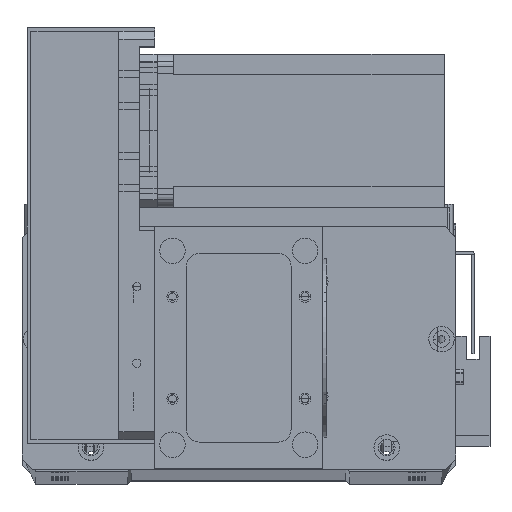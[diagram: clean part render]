
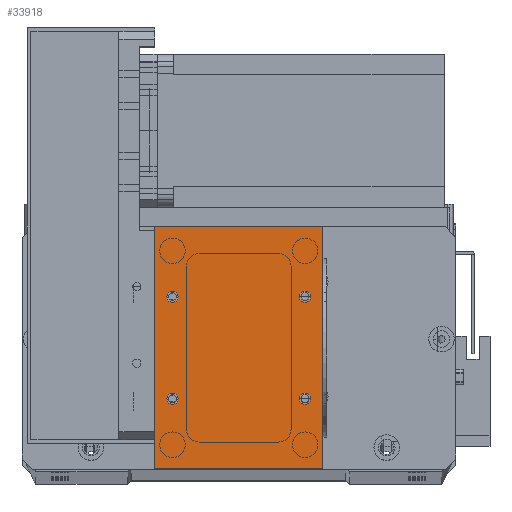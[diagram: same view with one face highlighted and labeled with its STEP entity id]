
A CAD part, top view. The second image highlights one B-rep face of the part: STEP entity #33918.
In plain terms, the highlighted planar face has unit normal (0, 0, 1).
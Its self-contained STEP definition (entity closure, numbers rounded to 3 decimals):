
#682 = CARTESIAN_POINT ( 'NONE',  ( 61.25, 27.5, 2. ) ) ;
#988 = CARTESIAN_POINT ( 'NONE',  ( 61.25, 67.5, 2. ) ) ;
#1101 = ORIENTED_EDGE ( 'NONE', *, *, #25718, .F. ) ;
#1375 = CARTESIAN_POINT ( 'NONE',  ( 0., 95., 2. ) ) ;
#1760 = CARTESIAN_POINT ( 'NONE',  ( 0., 0., 2. ) ) ;
#2387 = AXIS2_PLACEMENT_3D ( 'NONE', #13676, #32289, #16346 ) ;
#2413 = CARTESIAN_POINT ( 'NONE',  ( 56.75, 67.5, 2. ) ) ;
#2605 = DIRECTION ( 'NONE',  ( 0., 0., 1. ) ) ;
#2653 = ORIENTED_EDGE ( 'NONE', *, *, #20261, .F. ) ;
#2691 = AXIS2_PLACEMENT_3D ( 'NONE', #19120, #3197, #21784 ) ;
#2707 = VERTEX_POINT ( 'NONE', #12539 ) ;
#2778 = FACE_BOUND ( 'NONE', #3938, .T. ) ;
#3110 = CARTESIAN_POINT ( 'NONE',  ( 9.25, 67.5, 2. ) ) ;
#3197 = DIRECTION ( 'NONE',  ( 0., 0., 1. ) ) ;
#3351 = LINE ( 'NONE', #15762, #30837 ) ;
#3468 = CARTESIAN_POINT ( 'NONE',  ( 7., 67.5, 2. ) ) ;
#3938 = EDGE_LOOP ( 'NONE', ( #5682, #15000 ) ) ;
#4869 = ORIENTED_EDGE ( 'NONE', *, *, #27248, .F. ) ;
#5108 = ORIENTED_EDGE ( 'NONE', *, *, #32417, .F. ) ;
#5682 = ORIENTED_EDGE ( 'NONE', *, *, #17378, .F. ) ;
#6128 = DIRECTION ( 'NONE',  ( 1., 0., 0. ) ) ;
#6386 = EDGE_CURVE ( 'NONE', #23141, #20887, #33708, .T. ) ;
#6452 = AXIS2_PLACEMENT_3D ( 'NONE', #7600, #26212, #10266 ) ;
#6619 = EDGE_CURVE ( 'NONE', #25250, #34156, #19092, .T. ) ;
#7401 = EDGE_LOOP ( 'NONE', ( #4869, #15525 ) ) ;
#7600 = CARTESIAN_POINT ( 'NONE',  ( 59., 67.5, 2. ) ) ;
#8089 = VERTEX_POINT ( 'NONE', #988 ) ;
#8989 = CARTESIAN_POINT ( 'NONE',  ( 66., 0., 2. ) ) ;
#9280 = CIRCLE ( 'NONE', #33717, 2.25 ) ;
#9389 = CARTESIAN_POINT ( 'NONE',  ( 0., 95., 2. ) ) ;
#9685 = VERTEX_POINT ( 'NONE', #682 ) ;
#9852 = FACE_BOUND ( 'NONE', #11089, .T. ) ;
#10001 = VERTEX_POINT ( 'NONE', #2413 ) ;
#10014 = VECTOR ( 'NONE', #17390, 1000. ) ;
#10231 = CIRCLE ( 'NONE', #6452, 2.25 ) ;
#10266 = DIRECTION ( 'NONE',  ( 1., 0., 0. ) ) ;
#10377 = VECTOR ( 'NONE', #22353, 1000. ) ;
#10667 = CARTESIAN_POINT ( 'NONE',  ( 59., 67.5, 2. ) ) ;
#10669 = FACE_BOUND ( 'NONE', #24160, .T. ) ;
#10838 = EDGE_CURVE ( 'NONE', #20887, #22501, #17461, .T. ) ;
#10890 = CARTESIAN_POINT ( 'NONE',  ( 4.75, 67.5, 2. ) ) ;
#11089 = EDGE_LOOP ( 'NONE', ( #2653, #5108 ) ) ;
#11448 = DIRECTION ( 'NONE',  ( 0., 0., 1. ) ) ;
#11756 = EDGE_LOOP ( 'NONE', ( #13545, #19190, #18912, #26190 ) ) ;
#11824 = DIRECTION ( 'NONE',  ( 0., 0., 1. ) ) ;
#12020 = AXIS2_PLACEMENT_3D ( 'NONE', #27372, #11448, #30029 ) ;
#12539 = CARTESIAN_POINT ( 'NONE',  ( 9.25, 27.5, 2. ) ) ;
#12666 = DIRECTION ( 'NONE',  ( 0., 0., -1. ) ) ;
#13343 = DIRECTION ( 'NONE',  ( 1., 0., 0. ) ) ;
#13518 = EDGE_CURVE ( 'NONE', #30149, #2707, #28265, .T. ) ;
#13545 = ORIENTED_EDGE ( 'NONE', *, *, #20169, .T. ) ;
#13676 = CARTESIAN_POINT ( 'NONE',  ( 59., 27.5, 2. ) ) ;
#14940 = AXIS2_PLACEMENT_3D ( 'NONE', #3468, #22029, #6128 ) ;
#15000 = ORIENTED_EDGE ( 'NONE', *, *, #13518, .F. ) ;
#15525 = ORIENTED_EDGE ( 'NONE', *, *, #23048, .F. ) ;
#15762 = CARTESIAN_POINT ( 'NONE',  ( 0., 0., 2. ) ) ;
#16346 = DIRECTION ( 'NONE',  ( 1., 0., 0. ) ) ;
#16908 = FACE_BOUND ( 'NONE', #7401, .T. ) ;
#16942 = ORIENTED_EDGE ( 'NONE', *, *, #6619, .F. ) ;
#17077 = LINE ( 'NONE', #9389, #10014 ) ;
#17378 = EDGE_CURVE ( 'NONE', #2707, #30149, #29655, .T. ) ;
#17390 = DIRECTION ( 'NONE',  ( -1., 0., 0. ) ) ;
#17461 = LINE ( 'NONE', #8989, #10377 ) ;
#17722 = CIRCLE ( 'NONE', #22595, 2.25 ) ;
#17876 = VECTOR ( 'NONE', #31425, 1000. ) ;
#18519 = CARTESIAN_POINT ( 'NONE',  ( 0., 0., 2. ) ) ;
#18532 = CARTESIAN_POINT ( 'NONE',  ( 7., 67.5, 2. ) ) ;
#18676 = EDGE_CURVE ( 'NONE', #22501, #29126, #17077, .T. ) ;
#18912 = ORIENTED_EDGE ( 'NONE', *, *, #10838, .T. ) ;
#19092 = CIRCLE ( 'NONE', #14940, 2.25 ) ;
#19120 = CARTESIAN_POINT ( 'NONE',  ( 59., 27.5, 2. ) ) ;
#19190 = ORIENTED_EDGE ( 'NONE', *, *, #6386, .T. ) ;
#19492 = CIRCLE ( 'NONE', #2691, 2.25 ) ;
#20169 = EDGE_CURVE ( 'NONE', #29126, #23141, #3351, .T. ) ;
#20261 = EDGE_CURVE ( 'NONE', #9685, #30428, #29138, .T. ) ;
#20692 = CARTESIAN_POINT ( 'NONE',  ( 56.75, 27.5, 2. ) ) ;
#20766 = CARTESIAN_POINT ( 'NONE',  ( 66., 95., 2. ) ) ;
#20808 = CARTESIAN_POINT ( 'NONE',  ( 0., 0., 2. ) ) ;
#20887 = VERTEX_POINT ( 'NONE', #21894 ) ;
#21193 = DIRECTION ( 'NONE',  ( 1., 0., 0. ) ) ;
#21784 = DIRECTION ( 'NONE',  ( 1., 0., 0. ) ) ;
#21894 = CARTESIAN_POINT ( 'NONE',  ( 66., 0., 2. ) ) ;
#22029 = DIRECTION ( 'NONE',  ( 0., 0., 1. ) ) ;
#22353 = DIRECTION ( 'NONE',  ( 0., 1., 0. ) ) ;
#22501 = VERTEX_POINT ( 'NONE', #20766 ) ;
#22595 = AXIS2_PLACEMENT_3D ( 'NONE', #10667, #29270, #13343 ) ;
#23048 = EDGE_CURVE ( 'NONE', #10001, #8089, #10231, .T. ) ;
#23141 = VERTEX_POINT ( 'NONE', #18519 ) ;
#23233 = PLANE ( 'NONE',  #31891 ) ;
#23921 = AXIS2_PLACEMENT_3D ( 'NONE', #27749, #11824, #30414 ) ;
#24160 = EDGE_LOOP ( 'NONE', ( #16942, #1101 ) ) ;
#25250 = VERTEX_POINT ( 'NONE', #3110 ) ;
#25718 = EDGE_CURVE ( 'NONE', #34156, #25250, #9280, .T. ) ;
#26190 = ORIENTED_EDGE ( 'NONE', *, *, #18676, .T. ) ;
#26212 = DIRECTION ( 'NONE',  ( 0., 0., 1. ) ) ;
#27248 = EDGE_CURVE ( 'NONE', #8089, #10001, #17722, .T. ) ;
#27372 = CARTESIAN_POINT ( 'NONE',  ( 7., 27.5, 2. ) ) ;
#27749 = CARTESIAN_POINT ( 'NONE',  ( 7., 27.5, 2. ) ) ;
#28265 = CIRCLE ( 'NONE', #12020, 2.25 ) ;
#29126 = VERTEX_POINT ( 'NONE', #1375 ) ;
#29138 = CIRCLE ( 'NONE', #2387, 2.25 ) ;
#29270 = DIRECTION ( 'NONE',  ( 0., 0., 1. ) ) ;
#29655 = CIRCLE ( 'NONE', #23921, 2.25 ) ;
#30029 = DIRECTION ( 'NONE',  ( 1., 0., 0. ) ) ;
#30149 = VERTEX_POINT ( 'NONE', #30248 ) ;
#30248 = CARTESIAN_POINT ( 'NONE',  ( 4.75, 27.5, 2. ) ) ;
#30249 = FACE_OUTER_BOUND ( 'NONE', #11756, .T. ) ;
#30414 = DIRECTION ( 'NONE',  ( 1., 0., 0. ) ) ;
#30428 = VERTEX_POINT ( 'NONE', #20692 ) ;
#30837 = VECTOR ( 'NONE', #31728, 1000. ) ;
#31286 = DIRECTION ( 'NONE',  ( -1., 0., 0. ) ) ;
#31425 = DIRECTION ( 'NONE',  ( 1., 0., 0. ) ) ;
#31728 = DIRECTION ( 'NONE',  ( 0., -1., 0. ) ) ;
#31891 = AXIS2_PLACEMENT_3D ( 'NONE', #1760, #12666, #31286 ) ;
#32289 = DIRECTION ( 'NONE',  ( 0., 0., 1. ) ) ;
#32417 = EDGE_CURVE ( 'NONE', #30428, #9685, #19492, .T. ) ;
#33708 = LINE ( 'NONE', #20808, #17876 ) ;
#33717 = AXIS2_PLACEMENT_3D ( 'NONE', #18532, #2605, #21193 ) ;
#33918 = ADVANCED_FACE ( 'NONE', ( #10669, #16908, #9852, #2778, #30249 ), #23233, .F. ) ;
#34156 = VERTEX_POINT ( 'NONE', #10890 ) ;
